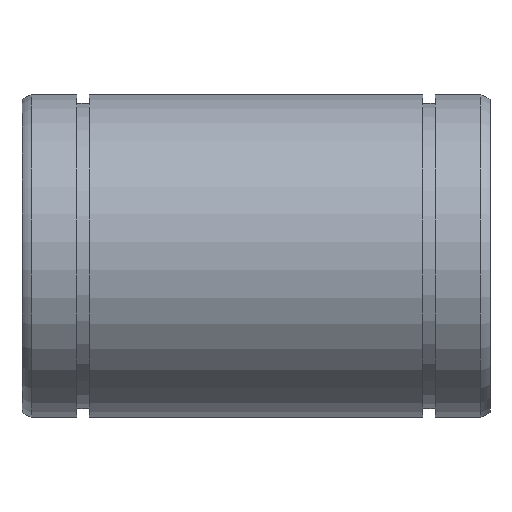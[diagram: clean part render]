
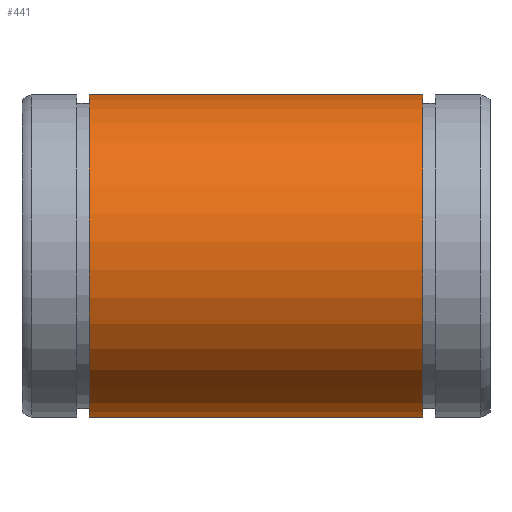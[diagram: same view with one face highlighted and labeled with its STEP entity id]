
A CAD part, top view. The second image highlights one B-rep face of the part: STEP entity #441.
In plain terms, the highlighted cylindrical face has radius 23.5 mm (diameter 47 mm), a partial arc.
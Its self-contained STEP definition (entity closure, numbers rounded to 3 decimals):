
#180=CARTESIAN_POINT('',(9.8,9.842,-21.34));
#181=VERTEX_POINT('',#180);
#188=CARTESIAN_POINT('',(58.2,9.842,-21.34));
#189=VERTEX_POINT('',#188);
#190=CARTESIAN_POINT('',(58.2,9.842,-21.34));
#191=DIRECTION('',(-1.0,0.0,0.0));
#192=VECTOR('',#191,48.4);
#193=LINE('',#190,#192);
#194=EDGE_CURVE('',#189,#181,#193,.T.);
#236=CARTESIAN_POINT('',(58.2,-9.842,-21.34));
#237=VERTEX_POINT('',#236);
#244=CARTESIAN_POINT('',(9.8,-9.842,-21.34));
#245=VERTEX_POINT('',#244);
#246=CARTESIAN_POINT('',(9.8,-9.842,-21.34));
#247=DIRECTION('',(1.0,0.0,0.0));
#248=VECTOR('',#247,48.4);
#249=LINE('',#246,#248);
#250=EDGE_CURVE('',#245,#237,#249,.T.);
#412=CARTESIAN_POINT('',(58.2,0.0,0.));
#413=DIRECTION('',(-1.0,0.0,0.0));
#414=DIRECTION('',(0.0,0.0,1.0));
#415=AXIS2_PLACEMENT_3D('',#412,#413,#414);
#416=CIRCLE('',#415,23.5);
#417=EDGE_CURVE('',#237,#189,#416,.T.);
#424=CARTESIAN_POINT('',(34.,0.0,0.));
#425=DIRECTION('',(-1.0,0.0,0.0));
#426=DIRECTION('',(0.0,0.0,1.0));
#427=AXIS2_PLACEMENT_3D('',#424,#425,#426);
#428=CYLINDRICAL_SURFACE('',#427,23.5);
#429=ORIENTED_EDGE('',*,*,#194,.T.);
#430=CARTESIAN_POINT('',(9.8,0.0,0.));
#431=DIRECTION('',(-1.0,0.0,0.0));
#432=DIRECTION('',(0.0,0.0,1.0));
#433=AXIS2_PLACEMENT_3D('',#430,#431,#432);
#434=CIRCLE('',#433,23.5);
#435=EDGE_CURVE('',#245,#181,#434,.T.);
#436=ORIENTED_EDGE('',*,*,#435,.F.);
#437=ORIENTED_EDGE('',*,*,#250,.T.);
#438=ORIENTED_EDGE('',*,*,#417,.T.);
#439=EDGE_LOOP('',(#429,#436,#437,#438));
#440=FACE_OUTER_BOUND('',#439,.T.);
#441=ADVANCED_FACE('',(#440),#428,.T.);
